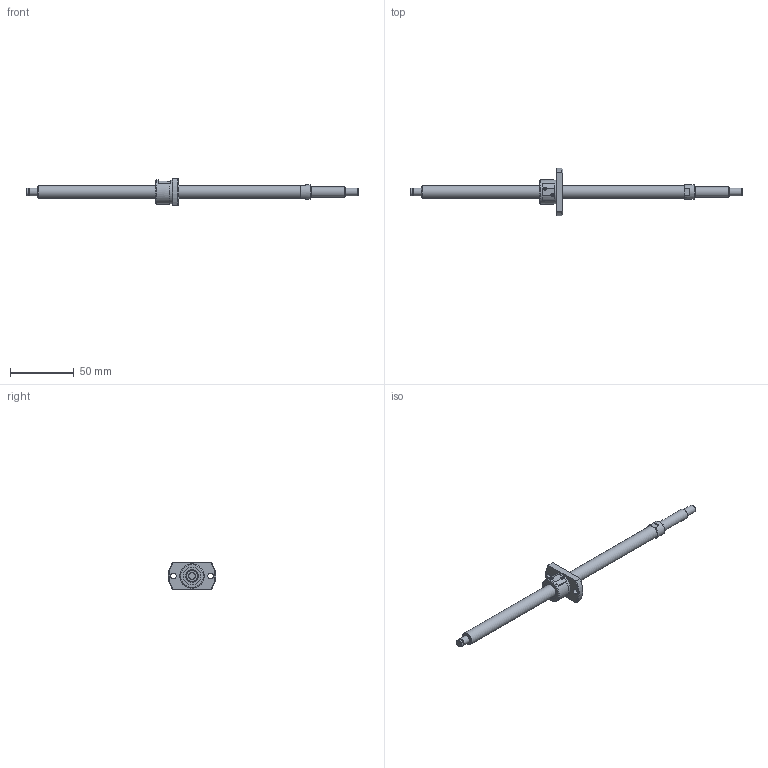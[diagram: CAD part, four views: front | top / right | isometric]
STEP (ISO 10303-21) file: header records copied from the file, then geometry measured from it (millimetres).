
FILE_DESCRIPTION(/* description */ ('STEP AP214'),/* implementation_level */ '2;1');
FILE_NAME(/* name */ 'SG1001-203R260C5B0X(92.5)',/* time_stamp */ '2026-07-24T15:11:10+02:00',/* author */ ('License CC BY-ND 4.0'),/* organization */ ('CADENAS'),/* preprocessor_version */ 'ST-DEVELOPER v20',/* originating_system */ 'PARTsolutions',/* authorisation */ ' ');
FILE_SCHEMA (('AUTOMOTIVE_DESIGN {1 0 10303 214 3 1 1}'));
Length unit declared in the file: millimetre
Products named in the file (3): SG1001-203R260C5B0X(92.5); SG1001-203R260C5B_shaft; SG1001 C5_nut
Assembly tree (2 placements, depth 2):
  SG1001-203R260C5B0X(92.5)
    SG1001-203R260C5B_shaft
    SG1001 C5_nut
Bounding box: 260 x 36.86 x 21 mm (x, y, z)
Volume: 24362.5 mm3; surface area: 11260.1 mm2
Topology: 2 solids, 2 shells, 81 faces, 194 edges, 127 vertices
Faces by surface type: plane 38, cylinder 28, cone 14, torus 1
Full cylindrical faces by diameter (mm): 4.5 x2, 5.7 x1, 6 x3, 8 x1, 10 x2, 11.5 x1, 14 x2, 18.5 x1, 19 x1
Entity records: 2265 total; most frequent: CARTESIAN_POINT 428, DIRECTION 382, ORIENTED_EDGE 318, AXIS2_PLACEMENT_3D 161, EDGE_CURVE 159, EDGE_LOOP 122, FACE_BOUND 122, VERTEX_POINT 117
